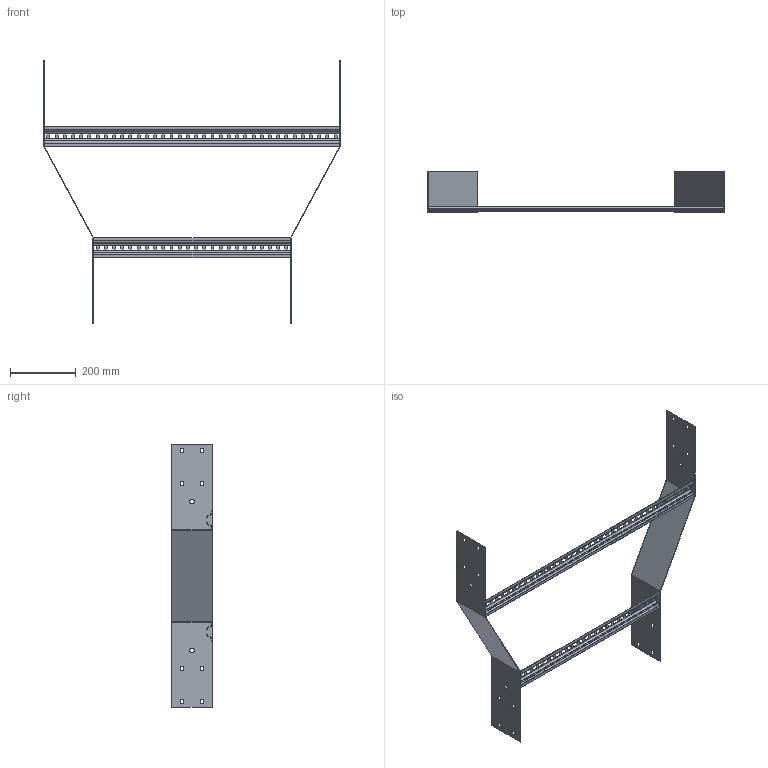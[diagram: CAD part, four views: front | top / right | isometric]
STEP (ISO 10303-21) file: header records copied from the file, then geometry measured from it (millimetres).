
FILE_DESCRIPTION (( 'STEP AP203' ), '1' );
FILE_NAME ('N3 SR 900600.STEP', '2024-08-27T20:32:33', ( '' ), ( '' ), 'SwSTEP 2.0', 'SolidWorks 2023', '' );
FILE_SCHEMA (( 'CONFIG_CONTROL_DESIGN' ));
Length unit declared in the file: millimetre
Products named in the file (4): Ladder Rung_Ladder Rung -  600mm; Ladder Rung_Ladder Rung -  900mm; N3 Reducer side plate_SR600x900; N3 SR 900600
Assembly tree (4 placements, depth 2):
  N3 SR 900600
    N3 Reducer side plate_SR600x900  x2
    Ladder Rung_Ladder Rung -  600mm
    Ladder Rung_Ladder Rung -  900mm
Bounding box: 904 x 124 x 800 mm (x, y, z)
Volume: 569672.5 mm3; surface area: 630025.9 mm2
Topology: 4 solids, 4 shells, 440 faces, 1200 edges, 768 vertices
Faces by surface type: plane 408, cylinder 32
Entity records: 12518 total; most frequent: CARTESIAN_POINT 2109, ORIENTED_EDGE 2096, DIRECTION 1874, EDGE_CURVE 1048, LINE 1000, VECTOR 1000, VERTEX_POINT 672, EDGE_LOOP 518
